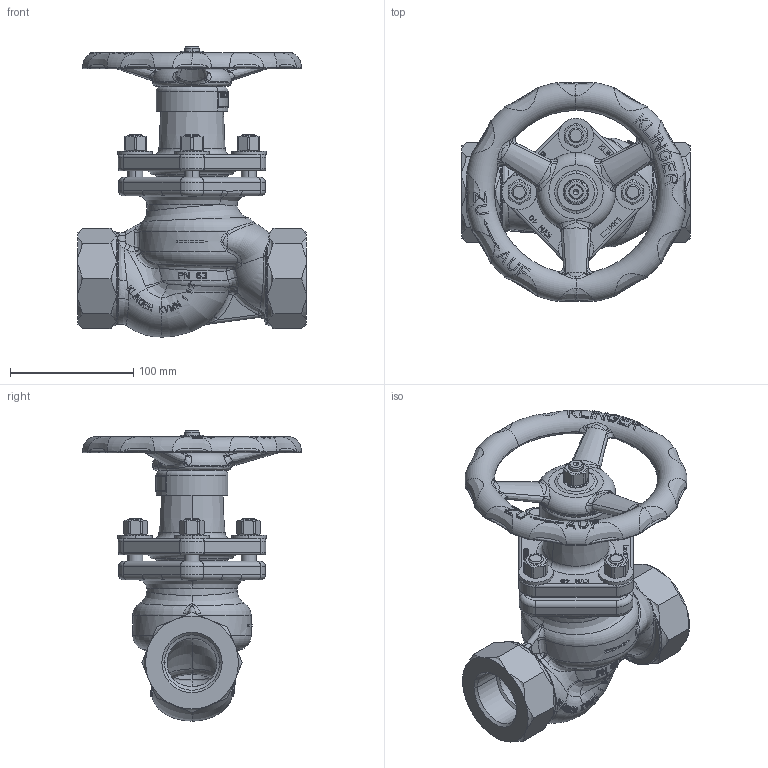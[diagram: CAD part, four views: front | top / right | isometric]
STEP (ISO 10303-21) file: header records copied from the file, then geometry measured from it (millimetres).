
FILE_DESCRIPTION((''),'2;1');
FILE_NAME('KVMN-G32S-----P063PGG_SW0001','2015-07-09T',('jeitlers'),('RAND'),'PRO/ENGINEER BY PARAMETRIC TECHNOLOGY CORPORATION, 2013410','PRO/ENGINEER BY PARAMETRIC TECHNOLOGY CORPORATION, 2013410','');
FILE_SCHEMA(('CONFIG_CONTROL_DESIGN'));
Products named in the file (1): KVMN-G32S-----P063PGG_SW0001
Bounding box: 185 x 177.48 x 235.3 mm (x, y, z)
Volume: 1065032.1 mm3; surface area: 262367.3 mm2
Topology: 2 solids, 2 shells, 2820 faces, 7527 edges, 4795 vertices
Faces by surface type: plane 1659, bspline 500, cylinder 353, torus 185, cone 115, extrusion 6, sphere 2
Entity records: 182915 total; most frequent: CARTESIAN_POINT 118873, ORIENTED_EDGE 15046, DIRECTION 10726, EDGE_CURVE 7523, VERTEX_POINT 4795, AXIS2_PLACEMENT_3D 3616, VECTOR 3494, LINE 3488
